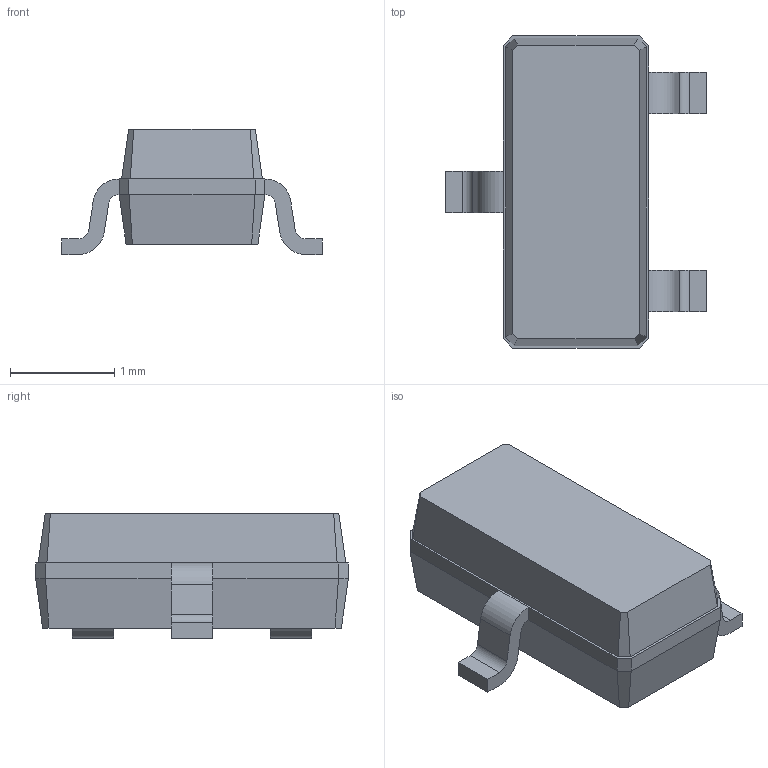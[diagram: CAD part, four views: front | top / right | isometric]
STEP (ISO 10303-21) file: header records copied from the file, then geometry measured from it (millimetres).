
FILE_DESCRIPTION(/* description */ ('STEP AP242 Edition 2','CAx-IF Rec.Pracs.---Representation and Presentation of Product Manufacturing Information (PMI)---4.0---2014-10-13','CAx-IF Rec.Pracs.---3D Tessellated Geometry---0.4---2014-09-14','2;1','CAx-IF Rec.Pracs.---User Defined Attributes---1.5---2016-08-15'),/* implementation_level */ '2;1');
FILE_NAME(/* name */ 'v2_assembly - SOT-23',/* time_stamp */ '2026-05-19T16:26:07Z',/* author */ (''),/* organization */ (''),/* preprocessor_version */ 'ST-DEVELOPER v20',/* originating_system */ 'ONSHAPE BY PTC INC, 1.215',/* authorisation */ ' ');
FILE_SCHEMA (('AP242_MANAGED_MODEL_BASED_3D_ENGINEERING_MIM_LF { 1 0 10303 442 3 1 4 }'));
Length unit declared in the file: metre
Products named in the file (1): SOT-23
Bounding box: 2.5 x 3 x 1.2 mm (x, y, z)
Volume: 4.4 mm3; surface area: 19.6 mm2
Topology: 1 solids, 1 shells, 63 faces, 160 edges, 100 vertices
Faces by surface type: plane 51, cylinder 12
Entity records: 2077 total; most frequent: CARTESIAN_POINT 324, ORIENTED_EDGE 320, DIRECTION 312, EDGE_CURVE 160, LINE 136, VECTOR 136, VERTEX_POINT 100, AXIS2_PLACEMENT_3D 88
